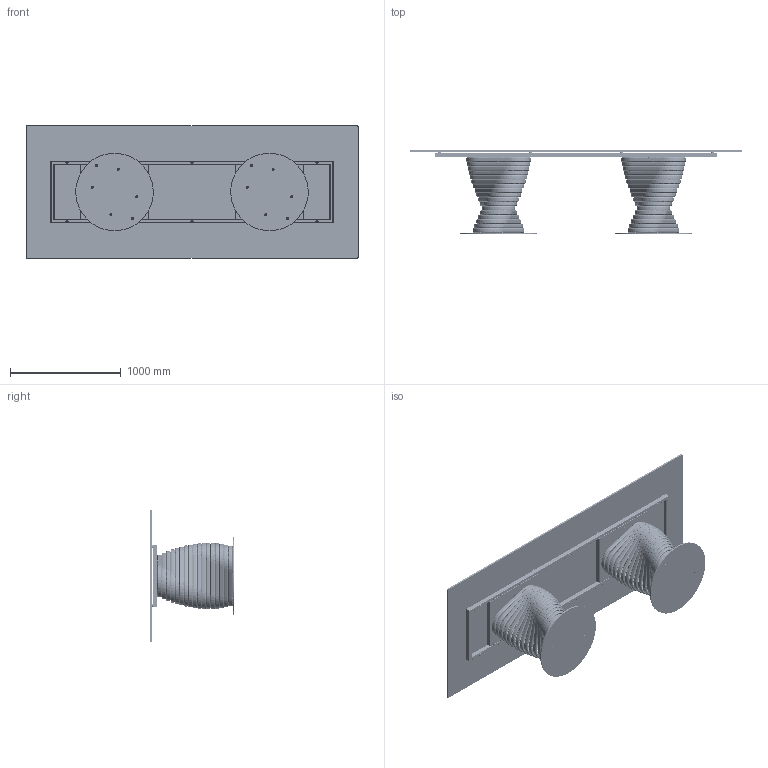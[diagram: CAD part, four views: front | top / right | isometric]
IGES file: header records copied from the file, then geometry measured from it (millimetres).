
Start section: SolidWorks IGES file using analytic representation for surfaces
Global section: file name: Y:\eforma\TECNICO\SOLIDWORKS\E-FORMA\1-TAVOLI\ROTOLO\02 parts\RO24G.IGS; native system: SolidWorks 2022; preprocessor: SolidWorks 2022; author: eforma.tech; date: 240807.151818; units: millimetre
Bounding box: 3000 x 757 x 1200 mm (x, y, z)
Volume: 77685802.6 mm3; surface area: 21882793.8 mm2
Topology: 186 solids, 186 shells, 2830 faces, 6652 edges, 4148 vertices
Faces by surface type: revolution 1660, plane 1170
